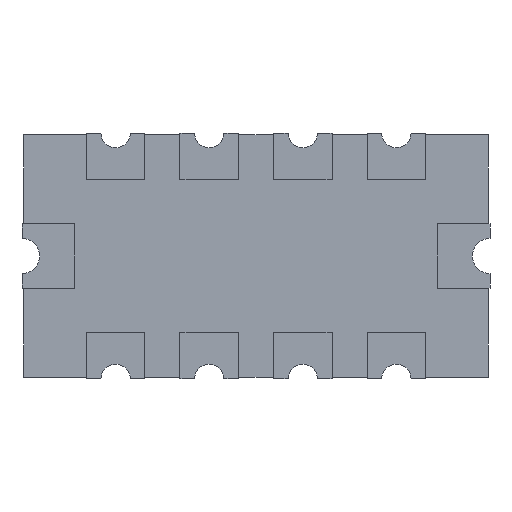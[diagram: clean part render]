
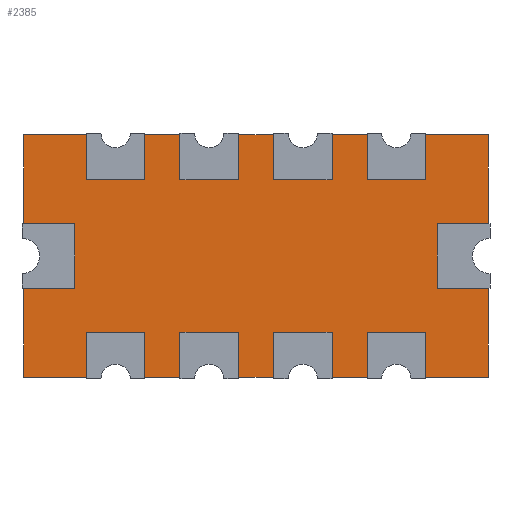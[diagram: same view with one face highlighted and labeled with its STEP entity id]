
A CAD part, front view. The second image highlights one B-rep face of the part: STEP entity #2385.
In plain terms, the highlighted planar face has unit normal (0, -1, 0).
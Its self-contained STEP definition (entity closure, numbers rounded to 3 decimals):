
#39=PLANE('',#2550);
#161=FACE_OUTER_BOUND('',#293,.T.);
#293=EDGE_LOOP('',(#1645,#1646,#1647,#1648,#1649,#1650,#1651,#1652,#1653,
#1654,#1655,#1656,#1657,#1658,#1659,#1660,#1661,#1662,#1663,#1664,#1665,
#1666,#1667,#1668));
#403=LINE('',#3320,#687);
#407=LINE('',#3332,#691);
#411=LINE('',#3344,#695);
#415=LINE('',#3356,#699);
#418=LINE('',#3362,#702);
#422=LINE('',#3374,#706);
#425=LINE('',#3380,#709);
#429=LINE('',#3392,#713);
#433=LINE('',#3404,#717);
#437=LINE('',#3416,#721);
#441=LINE('',#3428,#725);
#444=LINE('',#3434,#728);
#448=LINE('',#3446,#732);
#451=LINE('',#3451,#735);
#687=VECTOR('',#2690,0.55);
#691=VECTOR('',#2702,0.55);
#695=VECTOR('',#2714,0.55);
#699=VECTOR('',#2726,0.661);
#702=VECTOR('',#2731,0.886);
#706=VECTOR('',#2743,0.886);
#709=VECTOR('',#2748,0.661);
#713=VECTOR('',#2760,0.55);
#717=VECTOR('',#2772,0.55);
#721=VECTOR('',#2784,0.55);
#725=VECTOR('',#2796,0.661);
#728=VECTOR('',#2801,0.886);
#732=VECTOR('',#2813,0.886);
#735=VECTOR('',#2818,0.661);
#969=CIRCLE('',#2507,0.125);
#971=CIRCLE('',#2511,0.125);
#973=CIRCLE('',#2515,0.125);
#975=CIRCLE('',#2519,0.125);
#977=CIRCLE('',#2524,0.15);
#979=CIRCLE('',#2529,0.125);
#981=CIRCLE('',#2533,0.125);
#983=CIRCLE('',#2537,0.125);
#985=CIRCLE('',#2541,0.125);
#987=CIRCLE('',#2546,0.15);
#1009=VERTEX_POINT('',#3310);
#1010=VERTEX_POINT('',#3311);
#1013=VERTEX_POINT('',#3319);
#1015=VERTEX_POINT('',#3325);
#1017=VERTEX_POINT('',#3331);
#1019=VERTEX_POINT('',#3337);
#1021=VERTEX_POINT('',#3343);
#1023=VERTEX_POINT('',#3349);
#1025=VERTEX_POINT('',#3355);
#1027=VERTEX_POINT('',#3361);
#1029=VERTEX_POINT('',#3367);
#1031=VERTEX_POINT('',#3373);
#1033=VERTEX_POINT('',#3379);
#1035=VERTEX_POINT('',#3385);
#1037=VERTEX_POINT('',#3391);
#1039=VERTEX_POINT('',#3397);
#1041=VERTEX_POINT('',#3403);
#1043=VERTEX_POINT('',#3409);
#1045=VERTEX_POINT('',#3415);
#1047=VERTEX_POINT('',#3421);
#1049=VERTEX_POINT('',#3427);
#1051=VERTEX_POINT('',#3433);
#1053=VERTEX_POINT('',#3439);
#1055=VERTEX_POINT('',#3445);
#1225=EDGE_CURVE('',#1009,#1010,#969,.T.);
#1229=EDGE_CURVE('',#1010,#1013,#403,.T.);
#1232=EDGE_CURVE('',#1013,#1015,#971,.T.);
#1235=EDGE_CURVE('',#1015,#1017,#407,.T.);
#1238=EDGE_CURVE('',#1017,#1019,#973,.T.);
#1241=EDGE_CURVE('',#1019,#1021,#411,.T.);
#1244=EDGE_CURVE('',#1021,#1023,#975,.T.);
#1247=EDGE_CURVE('',#1023,#1025,#415,.T.);
#1250=EDGE_CURVE('',#1025,#1027,#418,.T.);
#1253=EDGE_CURVE('',#1027,#1029,#977,.T.);
#1256=EDGE_CURVE('',#1029,#1031,#422,.T.);
#1259=EDGE_CURVE('',#1031,#1033,#425,.T.);
#1262=EDGE_CURVE('',#1033,#1035,#979,.T.);
#1265=EDGE_CURVE('',#1035,#1037,#429,.T.);
#1268=EDGE_CURVE('',#1037,#1039,#981,.T.);
#1271=EDGE_CURVE('',#1039,#1041,#433,.T.);
#1274=EDGE_CURVE('',#1041,#1043,#983,.T.);
#1277=EDGE_CURVE('',#1043,#1045,#437,.T.);
#1280=EDGE_CURVE('',#1045,#1047,#985,.T.);
#1283=EDGE_CURVE('',#1047,#1049,#441,.T.);
#1286=EDGE_CURVE('',#1049,#1051,#444,.T.);
#1289=EDGE_CURVE('',#1051,#1053,#987,.T.);
#1292=EDGE_CURVE('',#1053,#1055,#448,.T.);
#1295=EDGE_CURVE('',#1055,#1009,#451,.T.);
#1645=ORIENTED_EDGE('',*,*,#1295,.T.);
#1646=ORIENTED_EDGE('',*,*,#1225,.T.);
#1647=ORIENTED_EDGE('',*,*,#1229,.T.);
#1648=ORIENTED_EDGE('',*,*,#1232,.T.);
#1649=ORIENTED_EDGE('',*,*,#1235,.T.);
#1650=ORIENTED_EDGE('',*,*,#1238,.T.);
#1651=ORIENTED_EDGE('',*,*,#1241,.T.);
#1652=ORIENTED_EDGE('',*,*,#1244,.T.);
#1653=ORIENTED_EDGE('',*,*,#1247,.T.);
#1654=ORIENTED_EDGE('',*,*,#1250,.T.);
#1655=ORIENTED_EDGE('',*,*,#1253,.T.);
#1656=ORIENTED_EDGE('',*,*,#1256,.T.);
#1657=ORIENTED_EDGE('',*,*,#1259,.T.);
#1658=ORIENTED_EDGE('',*,*,#1262,.T.);
#1659=ORIENTED_EDGE('',*,*,#1265,.T.);
#1660=ORIENTED_EDGE('',*,*,#1268,.T.);
#1661=ORIENTED_EDGE('',*,*,#1271,.T.);
#1662=ORIENTED_EDGE('',*,*,#1274,.T.);
#1663=ORIENTED_EDGE('',*,*,#1277,.T.);
#1664=ORIENTED_EDGE('',*,*,#1280,.T.);
#1665=ORIENTED_EDGE('',*,*,#1283,.T.);
#1666=ORIENTED_EDGE('',*,*,#1286,.T.);
#1667=ORIENTED_EDGE('',*,*,#1289,.T.);
#1668=ORIENTED_EDGE('',*,*,#1292,.T.);
#2385=ADVANCED_FACE('',(#161),#39,.T.);
#2507=AXIS2_PLACEMENT_3D('',#3312,#2682,#2683);
#2511=AXIS2_PLACEMENT_3D('',#3326,#2695,#2696);
#2515=AXIS2_PLACEMENT_3D('',#3338,#2707,#2708);
#2519=AXIS2_PLACEMENT_3D('',#3350,#2719,#2720);
#2524=AXIS2_PLACEMENT_3D('',#3368,#2736,#2737);
#2529=AXIS2_PLACEMENT_3D('',#3386,#2753,#2754);
#2533=AXIS2_PLACEMENT_3D('',#3398,#2765,#2766);
#2537=AXIS2_PLACEMENT_3D('',#3410,#2777,#2778);
#2541=AXIS2_PLACEMENT_3D('',#3422,#2789,#2790);
#2546=AXIS2_PLACEMENT_3D('',#3440,#2806,#2807);
#2550=AXIS2_PLACEMENT_3D('',#3453,#2820,#2821);
#2682=DIRECTION('center_axis',(0.,1.,0.));
#2683=DIRECTION('ref_axis',(-1.,0.,0.));
#2690=DIRECTION('',(1.,0.,0.));
#2695=DIRECTION('center_axis',(0.,1.,0.));
#2696=DIRECTION('ref_axis',(-1.,0.,0.));
#2702=DIRECTION('',(1.,0.,0.));
#2707=DIRECTION('center_axis',(0.,1.,0.));
#2708=DIRECTION('ref_axis',(-1.,0.,0.));
#2714=DIRECTION('',(1.,0.,0.));
#2719=DIRECTION('center_axis',(0.,1.,0.));
#2720=DIRECTION('ref_axis',(-1.,0.,0.));
#2726=DIRECTION('',(1.,0.,0.));
#2731=DIRECTION('',(0.,0.,1.));
#2736=DIRECTION('center_axis',(0.,1.,0.));
#2737=DIRECTION('ref_axis',(0.,0.,-1.));
#2743=DIRECTION('',(0.,0.,1.));
#2748=DIRECTION('',(-1.,0.,0.));
#2753=DIRECTION('center_axis',(0.,1.,0.));
#2754=DIRECTION('ref_axis',(1.,0.,0.));
#2760=DIRECTION('',(-1.,0.,0.));
#2765=DIRECTION('center_axis',(0.,1.,0.));
#2766=DIRECTION('ref_axis',(1.,0.,0.));
#2772=DIRECTION('',(-1.,0.,0.));
#2777=DIRECTION('center_axis',(0.,1.,0.));
#2778=DIRECTION('ref_axis',(1.,0.,0.));
#2784=DIRECTION('',(-1.,0.,0.));
#2789=DIRECTION('center_axis',(0.,1.,0.));
#2790=DIRECTION('ref_axis',(1.,0.,0.));
#2796=DIRECTION('',(-1.,0.,0.));
#2801=DIRECTION('',(0.,0.,-1.));
#2806=DIRECTION('center_axis',(0.,1.,0.));
#2807=DIRECTION('ref_axis',(0.,0.,1.));
#2813=DIRECTION('',(0.,0.,-1.));
#2818=DIRECTION('',(1.,0.,0.));
#2820=DIRECTION('center_axis',(0.,-1.,0.));
#2821=DIRECTION('ref_axis',(0.,0.,-1.));
#3310=CARTESIAN_POINT('',(0.675,0.,0.));
#3311=CARTESIAN_POINT('',(0.925,0.,0.));
#3312=CARTESIAN_POINT('Origin',(0.8,0.,0.));
#3319=CARTESIAN_POINT('',(1.475,0.,0.));
#3320=CARTESIAN_POINT('',(0.925,0.,0.));
#3325=CARTESIAN_POINT('',(1.725,0.,0.));
#3326=CARTESIAN_POINT('Origin',(1.6,0.,0.));
#3331=CARTESIAN_POINT('',(2.275,0.,0.));
#3332=CARTESIAN_POINT('',(1.725,0.,0.));
#3337=CARTESIAN_POINT('',(2.525,0.,0.));
#3338=CARTESIAN_POINT('Origin',(2.4,0.,0.));
#3343=CARTESIAN_POINT('',(3.075,0.,0.));
#3344=CARTESIAN_POINT('',(2.525,0.,0.));
#3349=CARTESIAN_POINT('',(3.325,0.,0.));
#3350=CARTESIAN_POINT('Origin',(3.2,0.,0.));
#3355=CARTESIAN_POINT('',(3.986,0.,0.));
#3356=CARTESIAN_POINT('',(3.325,0.,0.));
#3361=CARTESIAN_POINT('',(3.986,0.,0.886));
#3362=CARTESIAN_POINT('',(3.986,0.,0.));
#3367=CARTESIAN_POINT('',(3.986,0.,1.186));
#3368=CARTESIAN_POINT('Origin',(3.986,0.,1.036));
#3373=CARTESIAN_POINT('',(3.986,0.,2.072));
#3374=CARTESIAN_POINT('',(3.986,0.,1.186));
#3379=CARTESIAN_POINT('',(3.325,0.,2.072));
#3380=CARTESIAN_POINT('',(3.986,0.,2.072));
#3385=CARTESIAN_POINT('',(3.075,0.,2.072));
#3386=CARTESIAN_POINT('Origin',(3.2,0.,2.072));
#3391=CARTESIAN_POINT('',(2.525,0.,2.072));
#3392=CARTESIAN_POINT('',(3.075,0.,2.072));
#3397=CARTESIAN_POINT('',(2.275,0.,2.072));
#3398=CARTESIAN_POINT('Origin',(2.4,0.,2.072));
#3403=CARTESIAN_POINT('',(1.725,0.,2.072));
#3404=CARTESIAN_POINT('',(2.275,0.,2.072));
#3409=CARTESIAN_POINT('',(1.475,0.,2.072));
#3410=CARTESIAN_POINT('Origin',(1.6,0.,2.072));
#3415=CARTESIAN_POINT('',(0.925,0.,2.072));
#3416=CARTESIAN_POINT('',(1.475,0.,2.072));
#3421=CARTESIAN_POINT('',(0.675,0.,2.072));
#3422=CARTESIAN_POINT('Origin',(0.8,0.,2.072));
#3427=CARTESIAN_POINT('',(0.014,0.,2.072));
#3428=CARTESIAN_POINT('',(0.675,0.,2.072));
#3433=CARTESIAN_POINT('',(0.014,0.,1.186));
#3434=CARTESIAN_POINT('',(0.014,0.,2.072));
#3439=CARTESIAN_POINT('',(0.014,0.,0.886));
#3440=CARTESIAN_POINT('Origin',(0.014,0.,1.036));
#3445=CARTESIAN_POINT('',(0.014,0.,0.));
#3446=CARTESIAN_POINT('',(0.014,0.,0.886));
#3451=CARTESIAN_POINT('',(0.3,0.,0.));
#3453=CARTESIAN_POINT('Origin',(2.,0.,1.036));
